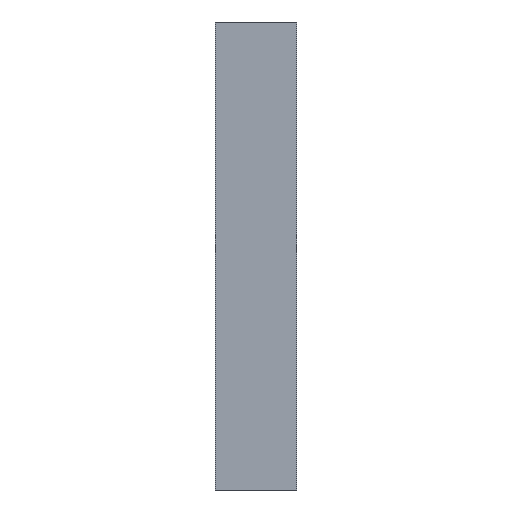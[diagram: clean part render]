
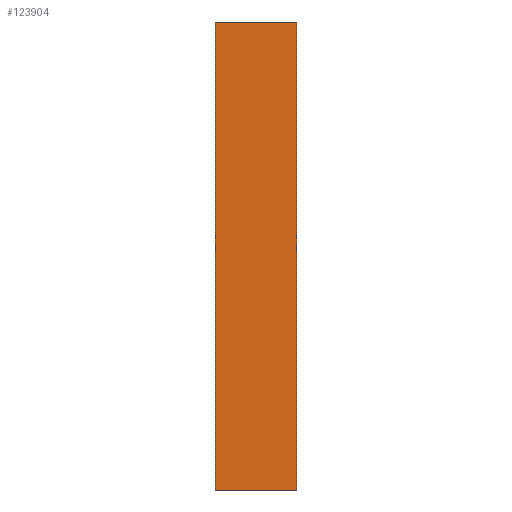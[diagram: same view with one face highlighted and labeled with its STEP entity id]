
A CAD part, front view. The second image highlights one B-rep face of the part: STEP entity #123904.
In plain terms, the highlighted planar face has unit normal (0, -1, 0).
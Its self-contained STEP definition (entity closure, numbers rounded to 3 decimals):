
#8852=DIRECTION('',(1.,0.,0.));
#8853=VECTOR('',#8852,80.);
#8854=CARTESIAN_POINT('',(-40.,101.2,70.));
#8855=LINE('',#8854,#8853);
#8856=DIRECTION('',(0.,0.,-1.));
#8857=VECTOR('',#8856,460.);
#8858=CARTESIAN_POINT('',(40.,101.2,70.));
#8859=LINE('',#8858,#8857);
#8860=DIRECTION('',(-1.,0.,0.));
#8861=VECTOR('',#8860,80.);
#8862=CARTESIAN_POINT('',(40.,101.2,-390.));
#8863=LINE('',#8862,#8861);
#8864=DIRECTION('',(0.,0.,1.));
#8865=VECTOR('',#8864,460.);
#8866=CARTESIAN_POINT('',(-40.,101.2,-390.));
#8867=LINE('',#8866,#8865);
#113365=CARTESIAN_POINT('',(-40.,101.2,70.));
#113366=CARTESIAN_POINT('',(40.,101.2,70.));
#113367=VERTEX_POINT('',#113365);
#113368=VERTEX_POINT('',#113366);
#113369=CARTESIAN_POINT('',(40.,101.2,-390.));
#113370=VERTEX_POINT('',#113369);
#113371=CARTESIAN_POINT('',(-40.,101.2,-390.));
#113372=VERTEX_POINT('',#113371);
#123890=CARTESIAN_POINT('',(0.,101.2,0.));
#123891=DIRECTION('',(0.,-1.,0.));
#123892=DIRECTION('',(0.,0.,-1.));
#123893=AXIS2_PLACEMENT_3D('',#123890,#123891,#123892);
#123894=PLANE('',#123893);
#123895=ORIENTED_EDGE('',*,*,#123880,.T.);
#123897=ORIENTED_EDGE('',*,*,#123896,.T.);
#123899=ORIENTED_EDGE('',*,*,#123898,.T.);
#123901=ORIENTED_EDGE('',*,*,#123900,.T.);
#123902=EDGE_LOOP('',(#123895,#123897,#123899,#123901));
#123903=FACE_OUTER_BOUND('',#123902,.F.);
#123904=ADVANCED_FACE('',(#123903),#123894,.T.);
#123880=EDGE_CURVE('',#113367,#113368,#8855,.T.);
#123896=EDGE_CURVE('',#113368,#113370,#8859,.T.);
#123898=EDGE_CURVE('',#113370,#113372,#8863,.T.);
#123900=EDGE_CURVE('',#113372,#113367,#8867,.T.);
